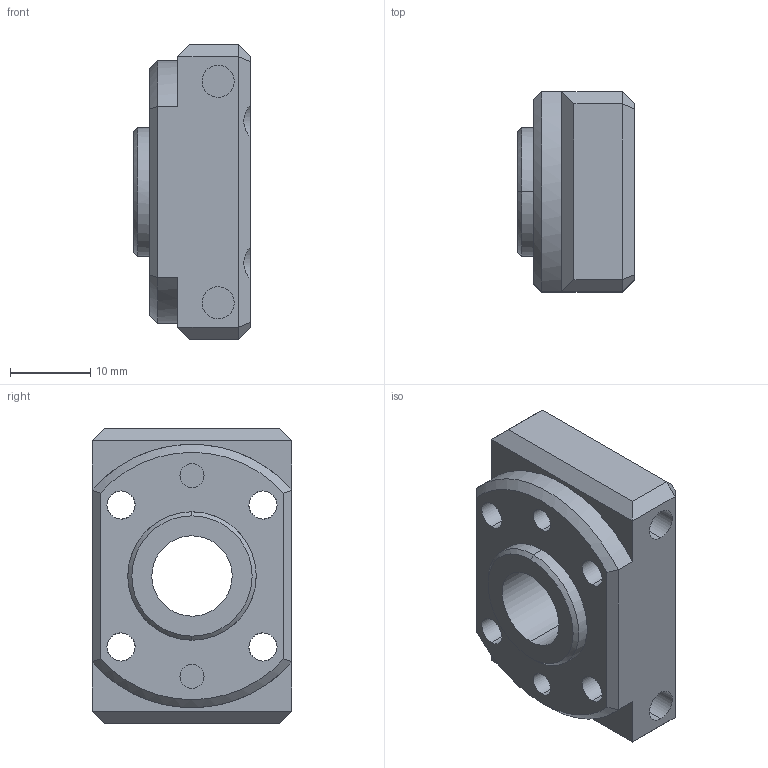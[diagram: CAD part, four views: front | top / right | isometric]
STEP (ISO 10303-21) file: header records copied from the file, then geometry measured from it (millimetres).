
FILE_DESCRIPTION((''),'2;1');
FILE_NAME('','2019-11-21T13:56:30',(''),(''),'','CADfix','');
FILE_SCHEMA(('AUTOMOTIVE_DESIGN { 1 0 10303 214 1 1 1 1 }'));
Length unit declared in the file: millimetre
Bounding box: 14.5 x 24.9 x 36.7 mm (x, y, z)
Volume: 8187.9 mm3; surface area: 4596.5 mm2
Topology: 1 solids, 1 shells, 79 faces, 256 edges, 188 vertices
Faces by surface type: bspline 79
Entity records: 3110 total; most frequent: CARTESIAN_POINT 1726, ORIENTED_EDGE 512, EDGE_CURVE 256, VERTEX_POINT 188, QUASI_UNIFORM_CURVE 98, EDGE_LOOP 98, FACE_OUTER_BOUND 79, ADVANCED_FACE 79
